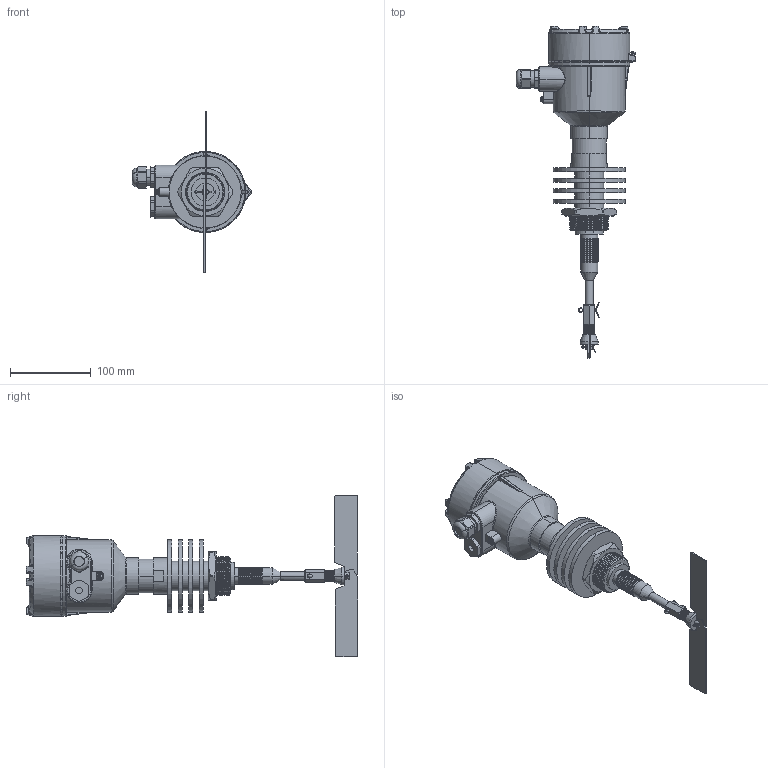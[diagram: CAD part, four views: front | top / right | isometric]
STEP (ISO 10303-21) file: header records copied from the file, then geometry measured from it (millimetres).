
FILE_DESCRIPTION (( 'STEP AP214' ), '1' );
FILE_NAME ('IL-LAA-N-Ex ñêëàäíàÿ ëîïàñòü - ð.STEP', '2020-12-27T20:26:25', ( '' ), ( '' ), 'SwSTEP 2.0', 'SolidWorks 2020', '' );
FILE_SCHEMA (( 'AUTOMOTIVE_DESIGN' ));
Length unit declared in the file: millimetre
Products named in the file (15): 幄鼭歑 2; Êîðïóñ íèç ñêëàäíàÿ; Ëîïàñòü ñêëàäíàÿ; Øïèëüêà (2); Êðûøêà; Âèíò Ì4; Ãîôðà; Ïðóæèíà; 扻豵鵨; IL-LAA-N-Ex ñêëàäíàÿ ëîïàñòü - ð; 幄鼭歑; Êîðïóñ ñåðåäèíà-ð; Äåòàëü2^IL-LAA-N-Ex ñêëàäíàÿ ëîïàñòü - ð; Øïèëüêà 2ìì; 扻錝僝鍧
Assembly tree (14 placements, depth 2):
  IL-LAA-N-Ex ñêëàäíàÿ ëîïàñòü - ð
    扻豵鵨
    扻錝僝鍧
    Êðûøêà
    幄鼭歑
    幄鼭歑 2
    Âèíò Ì4
    Êîðïóñ ñåðåäèíà-ð
    Êîðïóñ íèç ñêëàäíàÿ
    Ãîôðà
    Äåòàëü2^IL-LAA-N-Ex ñêëàäíàÿ ëîïàñòü - ð
    Ëîïàñòü ñêëàäíàÿ
    Ïðóæèíà
    Øïèëüêà 2ìì
    Øïèëüêà (2)
Bounding box: 147.53 x 410 x 200 mm (x, y, z)
Volume: 1224384.8 mm3; surface area: 180549 mm2
Topology: 14 solids, 14 shells, 1061 faces, 2491 edges, 1433 vertices
Faces by surface type: cylinder 314, plane 216, bspline 213, torus 198, cone 70, sphere 50
Entity records: 50268 total; most frequent: CARTESIAN_POINT 26834, ORIENTED_EDGE 4876, DIRECTION 4785, EDGE_CURVE 2438, AXIS2_PLACEMENT_3D 2081, VERTEX_POINT 1427, CIRCLE 1216, EDGE_LOOP 1125
